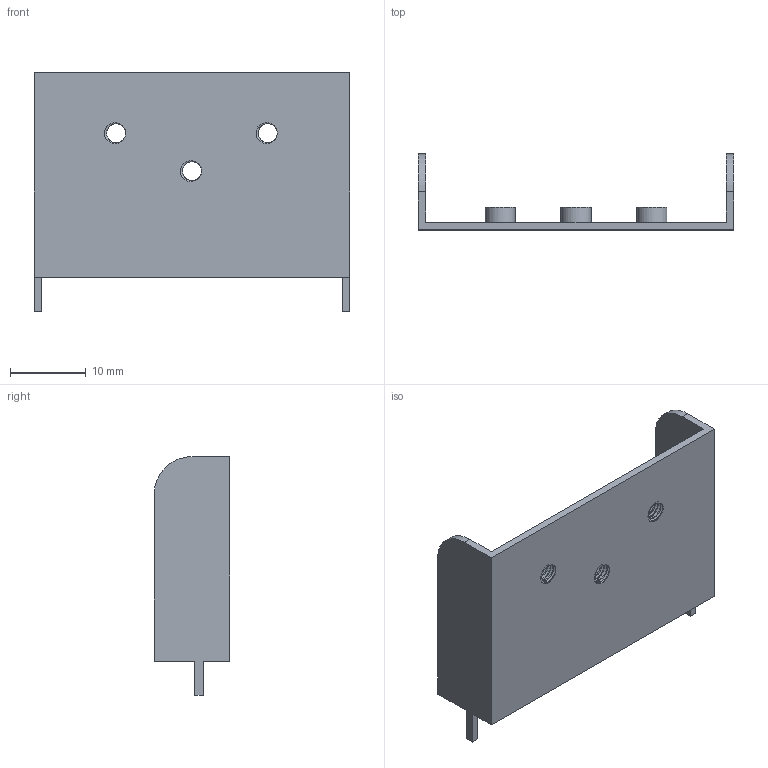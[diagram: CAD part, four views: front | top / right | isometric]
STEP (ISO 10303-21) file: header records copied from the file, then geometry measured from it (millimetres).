
FILE_DESCRIPTION(/* description */ ('','CAx-IF Rec.Pracs.---Representation and Presentation of Product Manufacturing Information (PMI)---4.0---2014-10-13'),/* implementation_level */ '2;1');
FILE_NAME(/* name */ 'TypeB-1-1.0.step',/* time_stamp */ '2025-01-27T02:26:30+09:00',/* author */ (''),/* organization */ (''),/* preprocessor_version */ 'ST-DEVELOPER v20',/* originating_system */ 'Autodesk Translation Framework v13.20.0.188',/* authorisation */ '');
FILE_SCHEMA (('AP242_MANAGED_MODEL_BASED_3D_ENGINEERING_MIM_LF { 1 0 10303 442 1 1 4 }'));
Length unit declared in the file: millimetre
Products named in the file (1): (未保存)
Bounding box: 41.6 x 10 x 31.5 mm (x, y, z)
Volume: 1630.4 mm3; surface area: 3573.1 mm2
Topology: 1 solids, 1 shells, 80 faces, 225 edges, 150 vertices
Faces by surface type: cylinder 47, plane 21, bspline 12
Full cylindrical faces by diameter (mm): 2.529 x9, 3.086 x6, 4 x3
Entity records: 6112 total; most frequent: CARTESIAN_POINT 4236, ORIENTED_EDGE 450, DIRECTION 271, EDGE_CURVE 225, VERTEX_POINT 150, B_SPLINE_CURVE_WITH_KNOTS 114, AXIS2_PLACEMENT_3D 91, EDGE_LOOP 89
